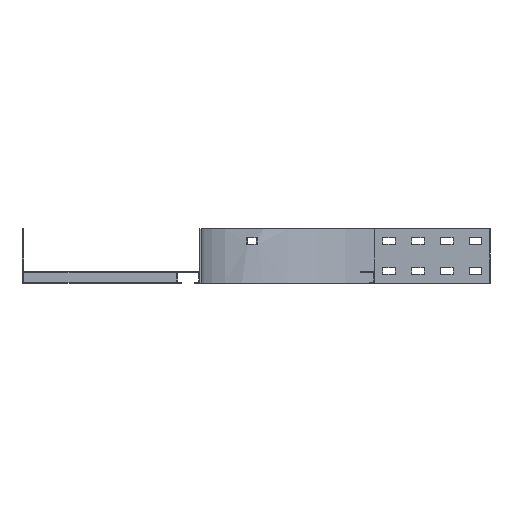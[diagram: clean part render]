
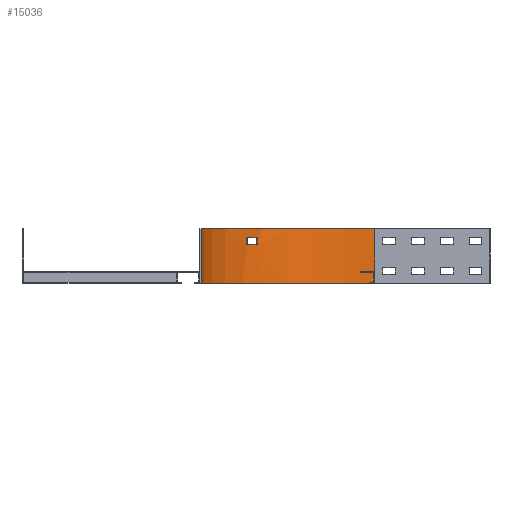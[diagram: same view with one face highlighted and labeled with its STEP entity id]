
A CAD part, left-side view. The second image highlights one B-rep face of the part: STEP entity #15036.
In plain terms, the highlighted cylindrical face has radius 300 mm (diameter 600 mm), a partial arc.
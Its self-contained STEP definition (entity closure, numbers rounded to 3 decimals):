
#391=FACE_BOUND('',#2143,.T.);
#689=CYLINDRICAL_SURFACE('',#15829,300.);
#732=CIRCLE('',#15828,300.);
#733=CIRCLE('',#15830,300.);
#734=CIRCLE('',#15831,300.);
#735=CIRCLE('',#15832,300.);
#1372=FACE_OUTER_BOUND('',#2142,.T.);
#2142=EDGE_LOOP('',(#10165,#10166,#10167,#10168));
#2143=EDGE_LOOP('',(#10169,#10170,#10171,#10172));
#3210=LINE('',#20901,#4806);
#3216=LINE('',#20913,#4812);
#3217=LINE('',#20923,#4813);
#3218=LINE('',#20926,#4814);
#4806=VECTOR('',#17012,304.8);
#4812=VECTOR('',#17020,304.8);
#4813=VECTOR('',#17033,304.8);
#4814=VECTOR('',#17036,304.8);
#6402=VERTEX_POINT('',#20898);
#6403=VERTEX_POINT('',#20900);
#6405=VERTEX_POINT('',#20906);
#6408=VERTEX_POINT('',#20911);
#6409=VERTEX_POINT('',#20919);
#6410=VERTEX_POINT('',#20920);
#6411=VERTEX_POINT('',#20922);
#6412=VERTEX_POINT('',#20924);
#7898=EDGE_CURVE('',#6402,#6403,#3210,.T.);
#7904=EDGE_CURVE('',#6408,#6405,#3216,.T.);
#7906=EDGE_CURVE('',#6405,#6402,#732,.T.);
#7907=EDGE_CURVE('',#6408,#6403,#733,.T.);
#7908=EDGE_CURVE('',#6409,#6410,#734,.T.);
#7909=EDGE_CURVE('',#6410,#6411,#3217,.T.);
#7910=EDGE_CURVE('',#6411,#6412,#735,.T.);
#7911=EDGE_CURVE('',#6412,#6409,#3218,.T.);
#10165=ORIENTED_EDGE('',*,*,#7898,.F.);
#10166=ORIENTED_EDGE('',*,*,#7906,.F.);
#10167=ORIENTED_EDGE('',*,*,#7904,.F.);
#10168=ORIENTED_EDGE('',*,*,#7907,.T.);
#10169=ORIENTED_EDGE('',*,*,#7908,.T.);
#10170=ORIENTED_EDGE('',*,*,#7909,.T.);
#10171=ORIENTED_EDGE('',*,*,#7910,.T.);
#10172=ORIENTED_EDGE('',*,*,#7911,.T.);
#15036=ADVANCED_FACE('',(#1372,#391),#689,.F.);
#15828=AXIS2_PLACEMENT_3D('',#20916,#17025,#17026);
#15829=AXIS2_PLACEMENT_3D('',#20917,#17027,#17028);
#15830=AXIS2_PLACEMENT_3D('',#20918,#17029,#17030);
#15831=AXIS2_PLACEMENT_3D('',#20921,#17031,#17032);
#15832=AXIS2_PLACEMENT_3D('',#20925,#17034,#17035);
#17012=DIRECTION('',(0.,0.,-1.));
#17020=DIRECTION('',(0.,0.,1.));
#17025=DIRECTION('center_axis',(0.,0.,-1.));
#17026=DIRECTION('ref_axis',(1.,0.,0.));
#17027=DIRECTION('center_axis',(0.,0.,1.));
#17028=DIRECTION('ref_axis',(1.,0.,0.));
#17029=DIRECTION('center_axis',(0.,0.,-1.));
#17030=DIRECTION('ref_axis',(1.,0.,0.));
#17031=DIRECTION('center_axis',(0.,0.,-1.));
#17032=DIRECTION('ref_axis',(1.,0.,0.));
#17033=DIRECTION('',(0.,0.,-1.));
#17034=DIRECTION('center_axis',(0.,0.,1.));
#17035=DIRECTION('ref_axis',(1.,0.,0.));
#17036=DIRECTION('',(0.,0.,1.));
#20898=CARTESIAN_POINT('',(-155.5,-455.5,47.));
#20900=CARTESIAN_POINT('',(-155.5,-455.5,-47.));
#20901=CARTESIAN_POINT('',(-155.5,-455.5,47.));
#20906=CARTESIAN_POINT('',(-455.5,-155.5,47.));
#20911=CARTESIAN_POINT('',(-455.5,-155.5,-47.));
#20913=CARTESIAN_POINT('',(-455.5,-155.5,-47.));
#20916=CARTESIAN_POINT('Origin',(-455.5,-455.5,47.));
#20917=CARTESIAN_POINT('Origin',(-455.5,-455.5,0.));
#20918=CARTESIAN_POINT('Origin',(-455.5,-455.5,-47.));
#20919=CARTESIAN_POINT('',(-252.279,-234.816,31.5));
#20920=CARTESIAN_POINT('',(-234.611,-252.503,31.5));
#20921=CARTESIAN_POINT('Origin',(-455.5,-455.5,31.5));
#20922=CARTESIAN_POINT('',(-234.611,-252.503,20.5));
#20923=CARTESIAN_POINT('',(-234.611,-252.503,31.5));
#20924=CARTESIAN_POINT('',(-252.279,-234.816,20.5));
#20925=CARTESIAN_POINT('Origin',(-455.5,-455.5,20.5));
#20926=CARTESIAN_POINT('',(-252.279,-234.816,20.5));
